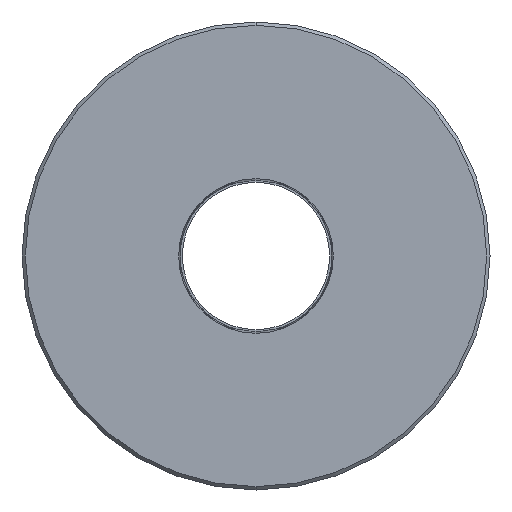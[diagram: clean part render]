
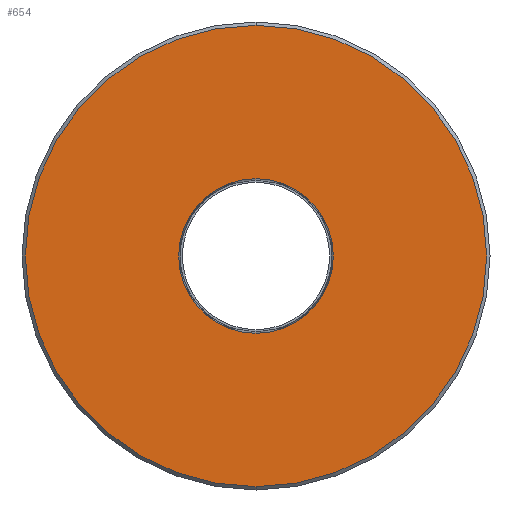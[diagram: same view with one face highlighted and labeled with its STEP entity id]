
A CAD part, front view. The second image highlights one B-rep face of the part: STEP entity #654.
In plain terms, the highlighted planar face has unit normal (0, -1, 0).
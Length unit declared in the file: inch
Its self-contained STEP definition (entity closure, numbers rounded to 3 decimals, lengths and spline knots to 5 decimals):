
#26 = DIRECTION ( 'NONE',  ( 0., 1., 0. ) ) ;
#53 = AXIS2_PLACEMENT_3D ( 'NONE', #265, #762, #335 ) ;
#114 = EDGE_CURVE ( 'NONE', #507, #666, #130, .T. ) ;
#121 = AXIS2_PLACEMENT_3D ( 'NONE', #719, #26, #501 ) ;
#129 = FACE_OUTER_BOUND ( 'NONE', #516, .T. ) ;
#130 = CIRCLE ( 'NONE', #646, 1.14823 ) ;
#136 = ORIENTED_EDGE ( 'NONE', *, *, #585, .F. ) ;
#149 = ORIENTED_EDGE ( 'NONE', *, *, #114, .F. ) ;
#155 = CARTESIAN_POINT ( 'NONE',  ( 0., 0., 0. ) ) ;
#158 = EDGE_LOOP ( 'NONE', ( #149, #136 ) ) ;
#181 = CARTESIAN_POINT ( 'NONE',  ( 0., 0., 3.425 ) ) ;
#226 = DIRECTION ( 'NONE',  ( 0., 0., -1. ) ) ;
#265 = CARTESIAN_POINT ( 'NONE',  ( 0., 0., 0. ) ) ;
#266 = CARTESIAN_POINT ( 'NONE',  ( 0., 0., 0. ) ) ;
#288 = CARTESIAN_POINT ( 'NONE',  ( 0., 0., 0. ) ) ;
#299 = CARTESIAN_POINT ( 'NONE',  ( 0., 0., 1.14823 ) ) ;
#329 = CIRCLE ( 'NONE', #885, 3.425 ) ;
#335 = DIRECTION ( 'NONE',  ( 0., 0., 1. ) ) ;
#338 = DIRECTION ( 'NONE',  ( 0., 0., 1. ) ) ;
#362 = DIRECTION ( 'NONE',  ( 0., 0., -1. ) ) ;
#383 = ORIENTED_EDGE ( 'NONE', *, *, #428, .T. ) ;
#428 = EDGE_CURVE ( 'NONE', #882, #854, #451, .T. ) ;
#439 = PLANE ( 'NONE',  #121 ) ;
#451 = CIRCLE ( 'NONE', #53, 3.425 ) ;
#479 = CIRCLE ( 'NONE', #660, 1.14823 ) ;
#501 = DIRECTION ( 'NONE',  ( 0., 0., 1. ) ) ;
#507 = VERTEX_POINT ( 'NONE', #697 ) ;
#516 = EDGE_LOOP ( 'NONE', ( #629, #383 ) ) ;
#585 = EDGE_CURVE ( 'NONE', #666, #507, #479, .T. ) ;
#629 = ORIENTED_EDGE ( 'NONE', *, *, #894, .T. ) ;
#645 = FACE_BOUND ( 'NONE', #158, .T. ) ;
#646 = AXIS2_PLACEMENT_3D ( 'NONE', #155, #648, #226 ) ;
#648 = DIRECTION ( 'NONE',  ( 0., -1., 0. ) ) ;
#654 = ADVANCED_FACE ( 'NONE', ( #129, #645 ), #439, .F. ) ;
#660 = AXIS2_PLACEMENT_3D ( 'NONE', #288, #786, #362 ) ;
#666 = VERTEX_POINT ( 'NONE', #299 ) ;
#697 = CARTESIAN_POINT ( 'NONE',  ( 0., 0., -1.14823 ) ) ;
#719 = CARTESIAN_POINT ( 'NONE',  ( 0., 0., 0. ) ) ;
#762 = DIRECTION ( 'NONE',  ( 0., -1., 0. ) ) ;
#765 = DIRECTION ( 'NONE',  ( 0., -1., 0. ) ) ;
#786 = DIRECTION ( 'NONE',  ( 0., -1., 0. ) ) ;
#854 = VERTEX_POINT ( 'NONE', #181 ) ;
#882 = VERTEX_POINT ( 'NONE', #891 ) ;
#885 = AXIS2_PLACEMENT_3D ( 'NONE', #266, #765, #338 ) ;
#891 = CARTESIAN_POINT ( 'NONE',  ( 0., 0., -3.425 ) ) ;
#894 = EDGE_CURVE ( 'NONE', #854, #882, #329, .T. ) ;
